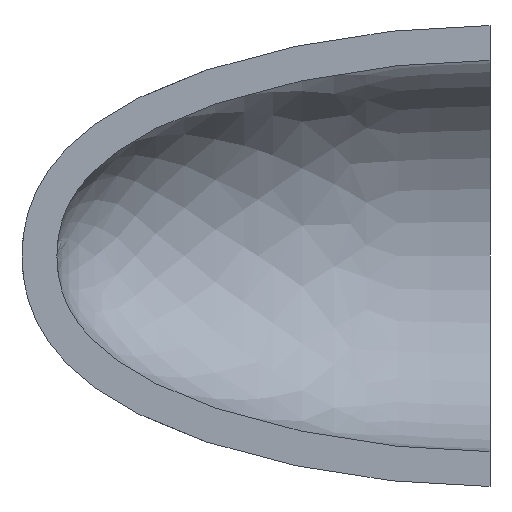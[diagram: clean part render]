
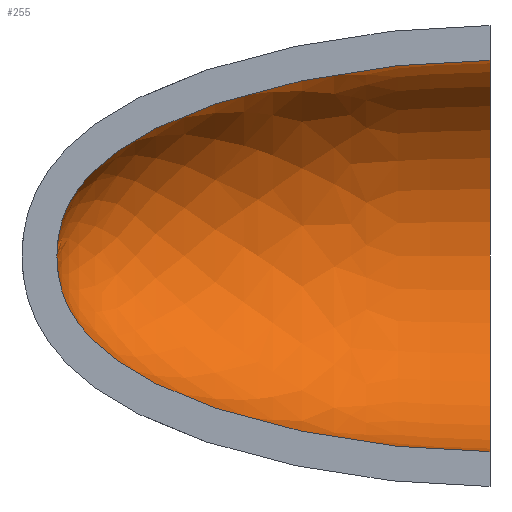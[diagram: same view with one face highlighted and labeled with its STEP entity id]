
A CAD part, left-side view. The second image highlights one B-rep face of the part: STEP entity #255.
In plain terms, the highlighted face is a revolution surface.
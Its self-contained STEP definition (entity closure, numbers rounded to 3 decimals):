
#100=CARTESIAN_POINT('Axis2P3D Location',(0.,0.,0.)) ;
#104=CARTESIAN_POINT('Vertex',(0.,0.,56.)) ;
#106=CARTESIAN_POINT('Vertex',(0.,0.,-56.)) ;
#132=CARTESIAN_POINT('Control Point',(0.,0.,-56.)) ;
#133=CARTESIAN_POINT('Control Point',(0.,2.266,-56.)) ;
#134=CARTESIAN_POINT('Control Point',(0.,4.559,-55.968)) ;
#135=CARTESIAN_POINT('Control Point',(0.,6.876,-55.905)) ;
#136=CARTESIAN_POINT('Control Point',(0.,13.091,-55.659)) ;
#137=CARTESIAN_POINT('Control Point',(0.,19.445,-55.206)) ;
#138=CARTESIAN_POINT('Control Point',(0.,23.45,-54.847)) ;
#139=CARTESIAN_POINT('Control Point',(0.,31.546,-53.976)) ;
#140=CARTESIAN_POINT('Control Point',(0.,39.727,-52.802)) ;
#141=CARTESIAN_POINT('Control Point',(0.,43.84,-52.136)) ;
#142=CARTESIAN_POINT('Control Point',(0.,51.971,-50.664)) ;
#143=CARTESIAN_POINT('Control Point',(0.,60.057,-48.869)) ;
#144=CARTESIAN_POINT('Control Point',(0.,64.031,-47.9)) ;
#145=CARTESIAN_POINT('Control Point',(0.,72.013,-45.759)) ;
#146=CARTESIAN_POINT('Control Point',(0.,79.788,-43.231)) ;
#147=CARTESIAN_POINT('Control Point',(0.,83.655,-41.844)) ;
#148=CARTESIAN_POINT('Control Point',(0.,89.875,-39.368)) ;
#149=CARTESIAN_POINT('Control Point',(0.,95.761,-36.552)) ;
#150=CARTESIAN_POINT('Control Point',(0.,98.014,-35.39)) ;
#151=CARTESIAN_POINT('Control Point',(0.,102.068,-33.125)) ;
#152=CARTESIAN_POINT('Control Point',(0.,105.834,-30.658)) ;
#153=CARTESIAN_POINT('Control Point',(0.,107.504,-29.475)) ;
#154=CARTESIAN_POINT('Control Point',(0.,110.522,-27.149)) ;
#155=CARTESIAN_POINT('Control Point',(0.,113.228,-24.669)) ;
#156=CARTESIAN_POINT('Control Point',(0.,114.43,-23.462)) ;
#157=CARTESIAN_POINT('Control Point',(0.,116.349,-21.342)) ;
#158=CARTESIAN_POINT('Control Point',(0.,118.016,-19.127)) ;
#159=CARTESIAN_POINT('Control Point',(0.,118.665,-18.191)) ;
#160=CARTESIAN_POINT('Control Point',(0.,119.862,-16.299)) ;
#161=CARTESIAN_POINT('Control Point',(0.,120.878,-14.342)) ;
#162=CARTESIAN_POINT('Control Point',(0.,121.336,-13.354)) ;
#163=CARTESIAN_POINT('Control Point',(0.,122.159,-11.355)) ;
#164=CARTESIAN_POINT('Control Point',(0.,122.803,-9.282)) ;
#165=CARTESIAN_POINT('Control Point',(0.,123.079,-8.232)) ;
#166=CARTESIAN_POINT('Control Point',(0.,123.559,-6.019)) ;
#167=CARTESIAN_POINT('Control Point',(0.,123.85,-3.715)) ;
#168=CARTESIAN_POINT('Control Point',(0.,123.95,-2.501)) ;
#169=CARTESIAN_POINT('Control Point',(0.,124.,-1.262)) ;
#170=CARTESIAN_POINT('Control Point',(0.,124.,0.)) ;
#171=CARTESIAN_POINT('Vertex',(0.,124.,0.)) ;
#175=CARTESIAN_POINT('Control Point',(0.,0.,56.)) ;
#176=CARTESIAN_POINT('Control Point',(0.,2.266,56.)) ;
#177=CARTESIAN_POINT('Control Point',(0.,4.559,55.968)) ;
#178=CARTESIAN_POINT('Control Point',(0.,6.876,55.905)) ;
#179=CARTESIAN_POINT('Control Point',(0.,13.091,55.659)) ;
#180=CARTESIAN_POINT('Control Point',(0.,19.445,55.206)) ;
#181=CARTESIAN_POINT('Control Point',(0.,23.45,54.847)) ;
#182=CARTESIAN_POINT('Control Point',(0.,31.546,53.976)) ;
#183=CARTESIAN_POINT('Control Point',(0.,39.727,52.802)) ;
#184=CARTESIAN_POINT('Control Point',(0.,43.84,52.136)) ;
#185=CARTESIAN_POINT('Control Point',(0.,51.971,50.664)) ;
#186=CARTESIAN_POINT('Control Point',(0.,60.057,48.869)) ;
#187=CARTESIAN_POINT('Control Point',(0.,64.031,47.9)) ;
#188=CARTESIAN_POINT('Control Point',(0.,72.013,45.759)) ;
#189=CARTESIAN_POINT('Control Point',(0.,79.788,43.231)) ;
#190=CARTESIAN_POINT('Control Point',(0.,83.655,41.844)) ;
#191=CARTESIAN_POINT('Control Point',(0.,89.875,39.368)) ;
#192=CARTESIAN_POINT('Control Point',(0.,95.761,36.552)) ;
#193=CARTESIAN_POINT('Control Point',(0.,98.014,35.39)) ;
#194=CARTESIAN_POINT('Control Point',(0.,102.068,33.125)) ;
#195=CARTESIAN_POINT('Control Point',(0.,105.834,30.658)) ;
#196=CARTESIAN_POINT('Control Point',(0.,107.504,29.475)) ;
#197=CARTESIAN_POINT('Control Point',(0.,110.522,27.149)) ;
#198=CARTESIAN_POINT('Control Point',(0.,113.228,24.669)) ;
#199=CARTESIAN_POINT('Control Point',(0.,114.43,23.462)) ;
#200=CARTESIAN_POINT('Control Point',(0.,116.349,21.342)) ;
#201=CARTESIAN_POINT('Control Point',(0.,118.016,19.127)) ;
#202=CARTESIAN_POINT('Control Point',(0.,118.665,18.191)) ;
#203=CARTESIAN_POINT('Control Point',(0.,119.862,16.299)) ;
#204=CARTESIAN_POINT('Control Point',(0.,120.878,14.342)) ;
#205=CARTESIAN_POINT('Control Point',(0.,121.336,13.354)) ;
#206=CARTESIAN_POINT('Control Point',(0.,122.159,11.355)) ;
#207=CARTESIAN_POINT('Control Point',(0.,122.803,9.282)) ;
#208=CARTESIAN_POINT('Control Point',(0.,123.079,8.232)) ;
#209=CARTESIAN_POINT('Control Point',(0.,123.559,6.019)) ;
#210=CARTESIAN_POINT('Control Point',(0.,123.85,3.715)) ;
#211=CARTESIAN_POINT('Control Point',(0.,123.95,2.501)) ;
#212=CARTESIAN_POINT('Control Point',(0.,124.,1.262)) ;
#213=CARTESIAN_POINT('Control Point',(0.,124.,0.)) ;
#225=CARTESIAN_POINT('Control Point',(0.,0.,56.)) ;
#226=CARTESIAN_POINT('Control Point',(0.,7.114,56.)) ;
#227=CARTESIAN_POINT('Control Point',(0.,14.732,55.685)) ;
#228=CARTESIAN_POINT('Control Point',(0.,22.835,55.046)) ;
#229=CARTESIAN_POINT('Control Point',(0.,39.733,53.091)) ;
#230=CARTESIAN_POINT('Control Point',(0.,57.244,49.699)) ;
#231=CARTESIAN_POINT('Control Point',(0.,65.958,47.625)) ;
#232=CARTESIAN_POINT('Control Point',(0.,78.588,43.912)) ;
#233=CARTESIAN_POINT('Control Point',(0.,89.966,39.308)) ;
#234=CARTESIAN_POINT('Control Point',(0.,93.587,37.675)) ;
#235=CARTESIAN_POINT('Control Point',(0.,100.419,34.221)) ;
#236=CARTESIAN_POINT('Control Point',(0.,106.323,30.419)) ;
#237=CARTESIAN_POINT('Control Point',(0.,109.014,28.439)) ;
#238=CARTESIAN_POINT('Control Point',(0.,113.834,24.347)) ;
#239=CARTESIAN_POINT('Control Point',(0.,117.516,20.021)) ;
#240=CARTESIAN_POINT('Control Point',(0.,119.068,17.808)) ;
#241=CARTESIAN_POINT('Control Point',(0.,121.638,13.27)) ;
#242=CARTESIAN_POINT('Control Point',(0.,123.188,8.354)) ;
#243=CARTESIAN_POINT('Control Point',(0.,123.721,5.765)) ;
#244=CARTESIAN_POINT('Control Point',(0.,124.,2.988)) ;
#245=CARTESIAN_POINT('Control Point',(0.,124.,0.)) ;
#246=CARTESIAN_POINT('Axis1P Location',(0.,0.,0.)) ;
#101=DIRECTION('Axis2P3D Direction',(0.,1.,0.)) ;
#247=DIRECTION('Axis1P Direction',(0.,1.,0.)) ;
#102=AXIS2_PLACEMENT_3D('Circle Axis2P3D',#100,#101,$) ;
#251=ORIENTED_EDGE('',*,*,#108,.F.) ;
#252=ORIENTED_EDGE('',*,*,#214,.T.) ;
#253=ORIENTED_EDGE('',*,*,#173,.F.) ;
#255=ADVANCED_FACE('PartBody',(#254),#249,.F.) ;
#248=AXIS1_PLACEMENT('Revolution Surface Axis1P',#246,#247) ;
#131=B_SPLINE_CURVE_WITH_KNOTS('',5,(#132,#133,#134,#135,#136,#137,#138,#139,#140,#141,#142,#143,#144,#145,#146,#147,#148,#149,#150,#151,#152,#153,#154,#155,#156,#157,#158,#159,#160,#161,#162,#163,#164,#165,#166,#167,#168,#169,#170),.UNSPECIFIED.,.F.,.U.,(6,3,3,3,3,3,3,3,3,3,3,3,6),(0.,16.427,43.635,71.002,97.748,125.183,142.949,158.178,171.822,181.539,191.118,200.574,210.673),.UNSPECIFIED.) ;
#174=B_SPLINE_CURVE_WITH_KNOTS('',5,(#175,#176,#177,#178,#179,#180,#181,#182,#183,#184,#185,#186,#187,#188,#189,#190,#191,#192,#193,#194,#195,#196,#197,#198,#199,#200,#201,#202,#203,#204,#205,#206,#207,#208,#209,#210,#211,#212,#213),.UNSPECIFIED.,.F.,.U.,(6,3,3,3,3,3,3,3,3,3,3,3,6),(0.,16.427,43.635,71.002,97.748,125.183,142.949,158.178,171.822,181.539,191.118,200.574,210.673),.UNSPECIFIED.) ;
#224=B_SPLINE_CURVE_WITH_KNOTS('',5,(#225,#226,#227,#228,#229,#230,#231,#232,#233,#234,#235,#236,#237,#238,#239,#240,#241,#242,#243,#244,#245),.UNSPECIFIED.,.F.,.U.,(6,3,3,3,3,3,6),(0.,37.343,74.686,93.358,112.029,130.701,149.372),.UNSPECIFIED.) ;
#103=CIRCLE('generated circle',#102,56.) ;
#108=EDGE_CURVE('',#105,#107,#103,.T.) ;
#173=EDGE_CURVE('',#107,#172,#131,.T.) ;
#214=EDGE_CURVE('',#105,#172,#174,.T.) ;
#250=EDGE_LOOP('',(#251,#252,#253)) ;
#254=FACE_OUTER_BOUND('',#250,.T.) ;
#249=SURFACE_OF_REVOLUTION('Surface of Revolution',#224,#248) ;
#105=VERTEX_POINT('',#104) ;
#107=VERTEX_POINT('',#106) ;
#172=VERTEX_POINT('',#171) ;
